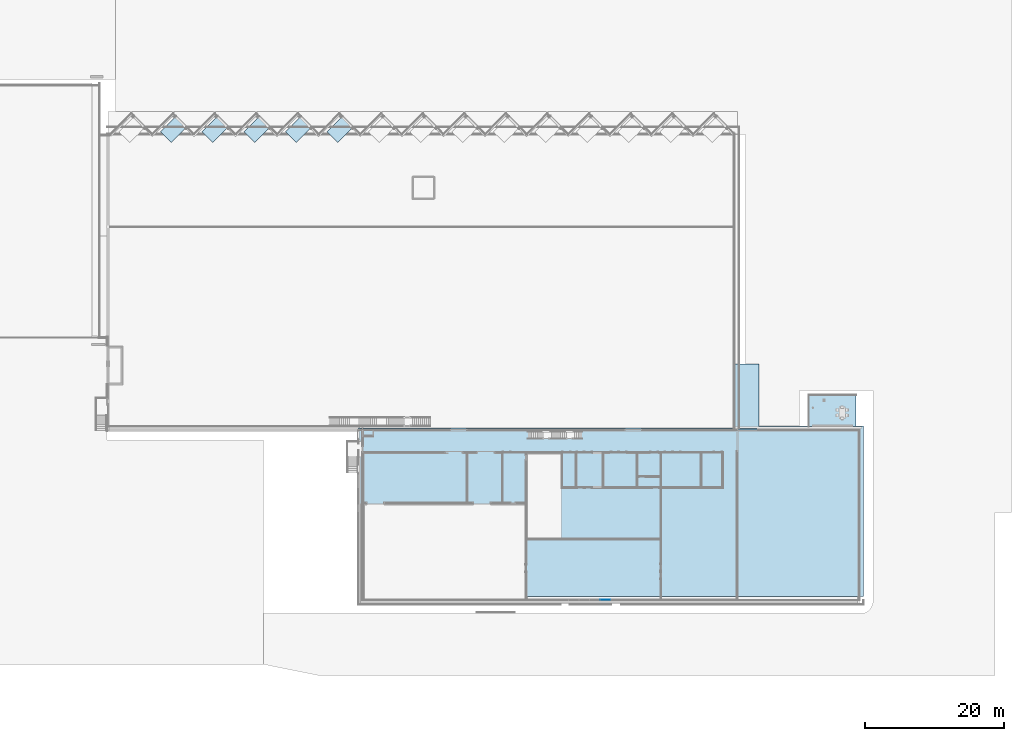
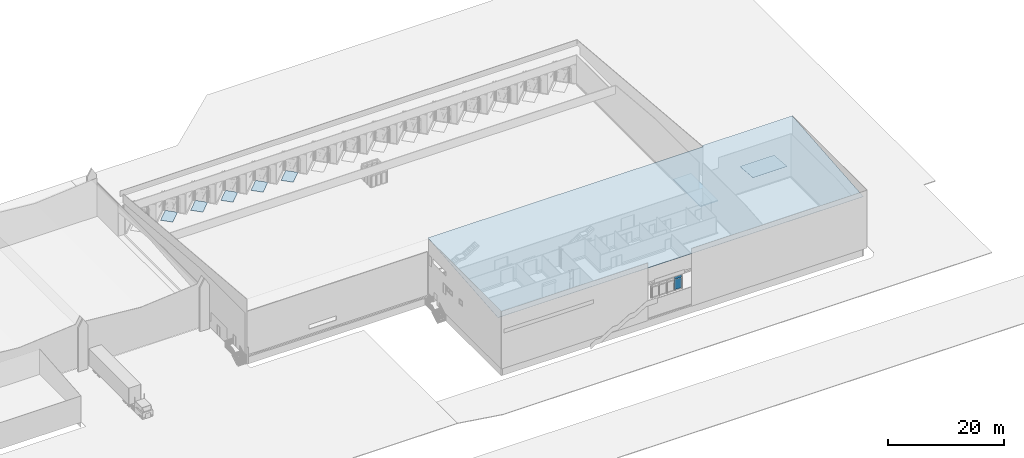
# One storey, part 16 of 64: 8 slabs, 2 plates, 3 elements without a shape of their own.
"""IFC2X3 building model written with IfcOpenShell, lengths in millimetres."""

from ifc_helpers import new_model, entity, si_unit, converted_unit, derived_unit, direction, frame, frame_2d, origin, origin_2d_with_axis, place, context, subcontext, project, spatial, polyline, rectangle, outline, extrude, source, transform, mapped, material, layer, layer_set, layer_usage, type_object, type_shapes, element, aggregate, save


model = new_model("IFC2X3")

# Units and contexts
model_context = context("Model", 3, precision=0.01, world=origin(), true_north=direction((4.05803320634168e-15, -1.0)))
body_context = subcontext(model_context, "Body", "Model", "MODEL_VIEW")
ifc_project = project(units=[si_unit("LENGTHUNIT", "METRE", prefix="MILLI"), si_unit("AREAUNIT", "SQUARE_METRE"), si_unit("VOLUMEUNIT", "CUBIC_METRE"), converted_unit("PLANEANGLEUNIT", "DEGREE", entity("IfcRatioMeasure", 0.0174532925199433), si_unit("PLANEANGLEUNIT", "RADIAN"), dimensions=[0, 0, 0, 0, 0, 0, 0]), si_unit("MASSUNIT", "GRAM", prefix="KILO"), derived_unit("MASSDENSITYUNIT", [(si_unit("MASSUNIT", "GRAM", prefix="KILO"), 1), (si_unit("LENGTHUNIT", "METRE"), -3)]), si_unit("TIMEUNIT", "SECOND"), si_unit("FREQUENCYUNIT", "HERTZ"), si_unit("THERMODYNAMICTEMPERATUREUNIT", "DEGREE_CELSIUS"), derived_unit("THERMALTRANSMITTANCEUNIT", [(si_unit("MASSUNIT", "GRAM", prefix="KILO"), 1), (si_unit("THERMODYNAMICTEMPERATUREUNIT", "KELVIN"), -1), (si_unit("TIMEUNIT", "SECOND"), -3)]), derived_unit("VOLUMETRICFLOWRATEUNIT", [(si_unit("LENGTHUNIT", "METRE"), 3), (si_unit("TIMEUNIT", "SECOND"), -1)]), si_unit("ELECTRICCURRENTUNIT", "AMPERE"), si_unit("ELECTRICVOLTAGEUNIT", "VOLT"), si_unit("POWERUNIT", "WATT"), si_unit("FORCEUNIT", "NEWTON", prefix="KILO"), si_unit("ILLUMINANCEUNIT", "LUX"), si_unit("LUMINOUSFLUXUNIT", "LUMEN"), si_unit("LUMINOUSINTENSITYUNIT", "CANDELA"), derived_unit("USERDEFINED", [(si_unit("MASSUNIT", "GRAM", prefix="KILO"), -1), (si_unit("LENGTHUNIT", "METRE"), -2), (si_unit("TIMEUNIT", "SECOND"), 3), (si_unit("LUMINOUSFLUXUNIT", "LUMEN"), 1)]), derived_unit("LINEARVELOCITYUNIT", [(si_unit("LENGTHUNIT", "METRE"), 1), (si_unit("TIMEUNIT", "SECOND"), -1)]), si_unit("PRESSUREUNIT", "PASCAL"), derived_unit("USERDEFINED", [(si_unit("LENGTHUNIT", "METRE"), -2), (si_unit("MASSUNIT", "GRAM", prefix="KILO"), 1), (si_unit("TIMEUNIT", "SECOND"), -2)])], contexts=[model_context])

# Site, building, storey
site_placement = place(None, frame((927466.849349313, 583801.882853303, 0.0), z_axis=(0.0, 0.0, 1.0), x_axis=(-1.0, 0.0, 0.0)))
site = spatial("IfcSite", under=ifc_project, at=site_placement, Name="Surface", CompositionType="ELEMENT")
building_placement = place(site_placement, origin())
building = spatial("IfcBuilding", under=site, at=building_placement, CompositionType="ELEMENT")
storey_placement = place(building_placement, frame((0.0, 0.0, 44170.0)))
storey = spatial("IfcBuildingStorey", under=building, at=storey_placement, Name="Ground FFL", CompositionType="ELEMENT", Elevation=44170.0)

# Curtain wall, plates
curtain_wall_type = type_object("IfcCurtainWallType", Name="Curtain Wall:Storefront", PredefinedType="NOTDEFINED")
curtain_wall_placement = place(storey_placement, frame((0.0, 0.0, -44170.0)))
curtain_wall = element("IfcCurtainWall", 1, at=curtain_wall_placement, inside=storey, type_object=curtain_wall_type, Name="Curtain Wall:Storefront", ObjectType="Curtain Wall:Storefront")
ifc_material_1 = material(Name="Glass")
plate_type_1 = type_object("IfcPlateType", Name="Glazed", PredefinedType="CURTAIN_PANEL", material=ifc_material_1)
shared_shape_1 = source(origin(), body_context, "Body", "SweptSolid", [
    extrude(rectangle(XDim=25.0, YDim=1429.81862789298, at=origin_2d_with_axis()), frame((0.0, 37.0, 0.0), z_axis=(0.0, 0.0, 1.0), x_axis=(0.0, 1.0, 0.0)), (0.0, 0.0, 1.0), 2145.0),
])
type_shapes(plate_type_1, [shared_shape_1])
plate_1_placement = place(curtain_wall_placement, frame((-116277.055769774, 36380.9699019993, 48220.0), z_axis=(0.0, 0.0, 1.0), x_axis=(-1.0, 0.0, 0.0)))
plate_1 = element("IfcPlate", 2, at=plate_1_placement, type_object=plate_type_1, material=ifc_material_1, Name="System Panel:Glazed", ObjectType="Glazed", context=body_context, shape_type="MappedRepresentation", body=[
    mapped(shared_shape_1, transform((0.0, 0.0, 0.0), scale=1.0)),
])
plate_type_2 = type_object("IfcPlateType", Name="Glazed", PredefinedType="CURTAIN_PANEL", material=ifc_material_1)
shared_shape_2 = source(origin(), body_context, "Body", "SweptSolid", [
    extrude(rectangle(XDim=25.0, YDim=1429.81862789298, at=origin_2d_with_axis()), frame((0.0, 37.0, 0.0), z_axis=(0.0, 0.0, 1.0), x_axis=(0.0, 1.0, 0.0)), (0.0, 0.0, 1.0), 505.000000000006),
])
type_shapes(plate_type_2, [shared_shape_2])
plate_2_placement = place(curtain_wall_placement, frame((-116277.055769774, 36380.9699019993, 50415.0), z_axis=(0.0, 0.0, 1.0), x_axis=(-1.0, 0.0, 0.0)))
plate_2 = element("IfcPlate", 3, at=plate_2_placement, type_object=plate_type_2, material=ifc_material_1, Name="System Panel:Glazed", ObjectType="Glazed", context=body_context, shape_type="MappedRepresentation", body=[
    mapped(shared_shape_2, transform((0.0, 0.0, 0.0), scale=1.0)),
])
aggregate(curtain_wall, [plate_1, plate_2])

# Roof, slab
roof_1_placement = place(storey_placement, frame((-153438.690247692, 11358.2777512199, 10035.1453886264)))
roof_1 = element("IfcRoof", 4, at=roof_1_placement, inside=storey, Name="Basic Roof:50", ObjectType="Basic Roof:50", ShapeType="NOTDEFINED")
ifc_material_2 = material(Name="Aluminum")
ifc_layer_1 = layer(ifc_material_2, 50.0)
ifc_layer_set_1 = layer_set([ifc_layer_1], Name="Basic Roof:50")
slab_1_placement = place(roof_1_placement, origin())
slab_1 = element("IfcSlab", 5, at=slab_1_placement, material=ifc_layer_set_1, Name="Basic Roof:50", ObjectType="Basic Roof:50", PredefinedType="ROOF", context=body_context, shape_type="SweptSolid", body=[
    extrude(outline(polyline([(36319.0492339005, -11974.4123294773), (36319.0492339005, 12295.6346774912), (-36319.0492339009, 12295.6346774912), (-36319.0492339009, -12295.6346774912), (-18418.950766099, -12295.6346774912), (-18418.950766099, -11974.4123294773), (36319.0492339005, -11974.4123294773)])), frame((36319.0492339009, 12248.8460753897, 1071.63517287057), z_axis=(0.0, 0.0871557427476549, 0.996194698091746), x_axis=(1.0, 0.0, 0.0)), (0.0, -0.0871557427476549, 0.996194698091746), 50.1909918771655),
])
aggregate(roof_1, [slab_1])

# Slabs
ifc_material_3 = material(Name="cocn slab")
ifc_layer_2 = layer(ifc_material_3, 200.0)
ifc_layer_set_2 = layer_set([ifc_layer_2], Name="Floor:Generic 150mm")
ifc_layer_usage_1 = layer_usage(ifc_layer_set_2, "AXIS3", "POSITIVE", 0.0)
slab_2_placement = place(storey_placement, origin())
element("IfcSlab", 6, at=slab_2_placement, inside=storey, material=ifc_layer_usage_1, Name="Floor:Generic 150mm", ObjectType="Floor:Generic 150mm", PredefinedType="FLOOR", context=body_context, shape_type="SweptSolid", body=[
    extrude(rectangle(XDim=9348.36927574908, YDim=3545.18807853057, at=frame_2d((4.54747350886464e-13, 6.05950845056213e-11), x_axis=(1.0, 0.0))), frame((-136673.185819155, 7149.40717321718, 0.0), z_axis=(0.0, 0.0, -1.0), x_axis=(0.0, 1.0, 0.0)), (0.0, 0.0, 1.0), 199.999999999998),
])
ifc_material_4 = material(Name="Wood - Stained")
ifc_layer_3 = layer(ifc_material_4, 50.0)
ifc_layer_set_3 = layer_set([ifc_layer_3], Name="Floor:Counter")
ifc_layer_usage_2 = layer_usage(ifc_layer_set_3, "AXIS3", "POSITIVE", 0.0)
slab_3_placement = place(storey_placement, frame((-133856.377847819, -33145.9604752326, -50.0)))
element("IfcSlab", 7, at=slab_3_placement, inside=storey, material=ifc_layer_usage_2, Name="Floor:Counter:10", ObjectType="Floor:Counter", PredefinedType="FLOOR", context=body_context, shape_type="SweptSolid", body=[
    extrude(rectangle(XDim=3081.03749272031, YDim=2185.04626113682, at=frame_2d((-11970.6465613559, 0.0), x_axis=(0.707106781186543, -0.707106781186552))), frame((43759.1047310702, 1861.84176632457, 50.0), z_axis=(0.0, 0.0, -1.0), x_axis=(-1.0, 0.0, 0.0)), (0.0, 0.0, 1.0), 49.9999999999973),
])
slab_4_placement = place(storey_placement, frame((-133856.377847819, -33145.9604752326, -50.0)))
element("IfcSlab", 8, at=slab_4_placement, inside=storey, material=ifc_layer_usage_2, Name="Floor:Counter:11", ObjectType="Floor:Counter", PredefinedType="FLOOR", context=body_context, shape_type="SweptSolid", body=[
    extrude(rectangle(XDim=3081.03749272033, YDim=2185.04626113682, at=frame_2d((-17955.9698420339, 0.0), x_axis=(0.707106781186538, -0.707106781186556))), frame((43759.1047310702, 1861.84176632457, 50.0), z_axis=(0.0, 0.0, -1.0), x_axis=(-1.0, 0.0, 0.0)), (0.0, 0.0, 1.0), 49.9999999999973),
])
slab_5_placement = place(storey_placement, frame((-133856.377847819, -33145.9604752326, -50.0)))
element("IfcSlab", 9, at=slab_5_placement, inside=storey, material=ifc_layer_usage_2, Name="Floor:Counter:12", ObjectType="Floor:Counter", PredefinedType="FLOOR", context=body_context, shape_type="SweptSolid", body=[
    extrude(rectangle(XDim=3081.0374927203, YDim=2185.04626113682, at=frame_2d((-23941.2931227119, 0.0), x_axis=(0.707106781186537, -0.707106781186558))), frame((43759.1047310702, 1861.84176632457, 50.0), z_axis=(0.0, 0.0, -1.0), x_axis=(-1.0, 0.0, 0.0)), (0.0, 0.0, 1.0), 49.9999999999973),
])
slab_6_placement = place(storey_placement, frame((-133856.377847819, -33145.9604752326, -50.0)))
element("IfcSlab", 10, at=slab_6_placement, inside=storey, material=ifc_layer_usage_2, Name="Floor:Counter:13", ObjectType="Floor:Counter", PredefinedType="FLOOR", context=body_context, shape_type="SweptSolid", body=[
    extrude(rectangle(XDim=3081.03749272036, YDim=2185.04626113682, at=frame_2d((-29926.6164033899, 0.0), x_axis=(0.707106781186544, -0.707106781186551))), frame((43759.1047310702, 1861.84176632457, 50.0), z_axis=(0.0, 0.0, -1.0), x_axis=(-1.0, 0.0, 0.0)), (0.0, 0.0, 1.0), 49.9999999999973),
])
slab_7_placement = place(storey_placement, frame((-133856.377847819, -33145.9604752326, -50.0)))
element("IfcSlab", 11, at=slab_7_placement, inside=storey, material=ifc_layer_usage_2, Name="Floor:Counter:14", ObjectType="Floor:Counter", PredefinedType="FLOOR", context=body_context, shape_type="SweptSolid", body=[
    extrude(rectangle(XDim=3081.03749272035, YDim=2185.04626113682, at=frame_2d((-35911.9396840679, 0.0), x_axis=(0.707106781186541, -0.707106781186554))), frame((43759.1047310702, 1861.84176632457, 50.0), z_axis=(0.0, 0.0, -1.0), x_axis=(-1.0, 0.0, 0.0)), (0.0, 0.0, 1.0), 49.9999999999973),
])

# Roof, slab
roof_2_placement = place(storey_placement, frame((-152390.801407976, 6919.01582707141, 1570.0)))
roof_2 = element("IfcRoof", 12, at=roof_2_placement, inside=storey, Name="Basic Roof:50", ObjectType="Basic Roof:50", ShapeType="NOTDEFINED")
slab_8_placement = place(roof_2_placement, origin())
slab_8 = element("IfcSlab", 13, at=slab_8_placement, material=ifc_layer_set_1, Name="Basic Roof:50", ObjectType="Basic Roof:50", PredefinedType="ROOF", context=body_context, shape_type="SweptSolid", body=[
    extrude(rectangle(XDim=6820.25555844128, YDim=4546.56296889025, at=frame_2d((0.0, 4.54747350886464e-13), x_axis=(-1.0, 0.0))), frame((3410.12777922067, 2264.63096207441, 198.129536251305), z_axis=(0.0, -0.0871557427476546, 0.996194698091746), x_axis=(1.0, 0.0, 0.0)), (0.0, 0.0871557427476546, 0.996194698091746), 50.1909918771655),
])
aggregate(roof_2, [slab_8])

save(model, "model.ifc")
